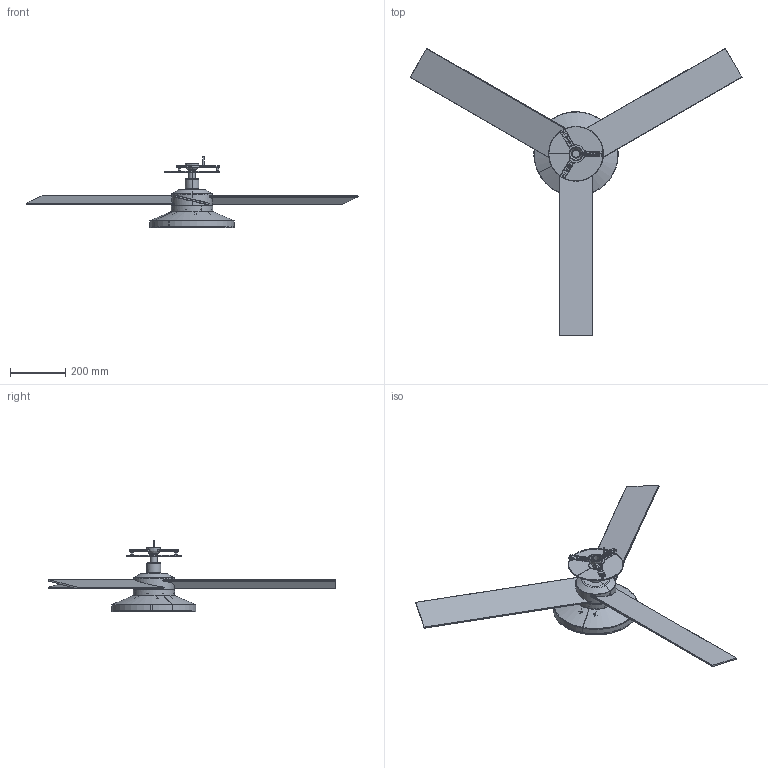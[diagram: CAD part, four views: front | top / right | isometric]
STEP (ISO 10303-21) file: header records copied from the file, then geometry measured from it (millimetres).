
FILE_DESCRIPTION(/* description */ (''),/* implementation_level */ '2;1');
FILE_NAME(/* name */ 'rudder_tak_recessed_3p_l_3d',/* time_stamp */ '2026-06-25T10:42:25+02:00',/* author */ (''),/* organization */ (''),/* preprocessor_version */ 'ST-DEVELOPER v19.2',/* originating_system */ 'Rhino 8.30',/* authorisation */ '');
FILE_SCHEMA (('CONFIG_CONTROL_DESIGN'));
Length unit declared in the file: millimetre
Products named in the file (1): Document
Bounding box: 1204.49 x 1043.19 x 258.3 mm (x, y, z)
Volume: 1586479.9 mm3; surface area: 1209195.2 mm2
Topology: 9 solids, 512 shells, 960 faces, 3902 edges, 3447 vertices
Faces by surface type: plane 509, cylinder 345, bspline 106
Entity records: 55621 total; most frequent: CARTESIAN_POINT 24059, ORIENTED_EDGE 5077, EDGE_CURVE 3902, VERTEX_POINT 3446, DIRECTION 2818, B_SPLINE_CURVE_WITH_KNOTS 2497, AXIS2_PLACEMENT_3D 1836, EDGE_LOOP 1026
